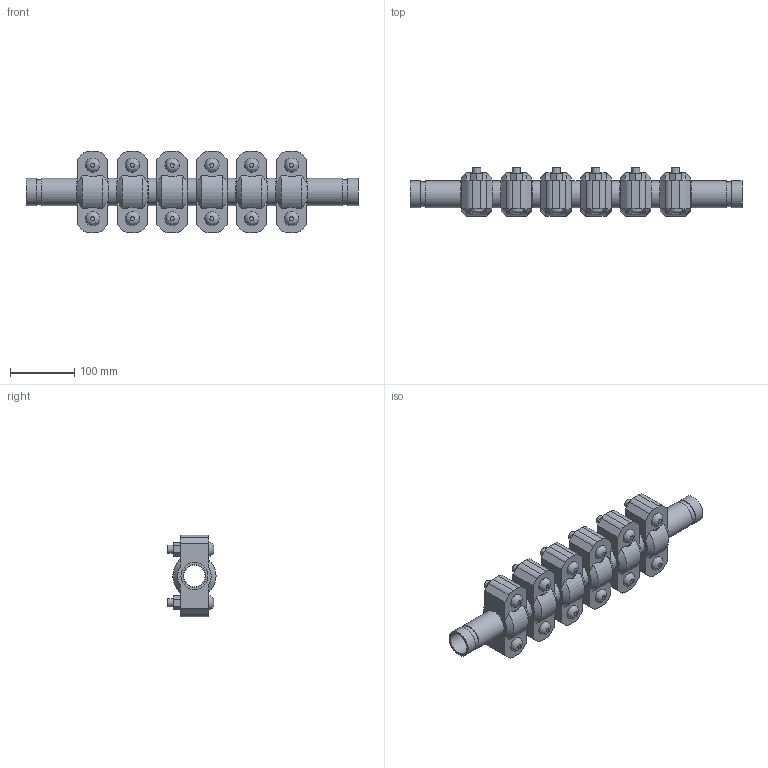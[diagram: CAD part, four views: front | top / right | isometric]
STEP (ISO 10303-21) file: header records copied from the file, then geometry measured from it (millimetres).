
FILE_DESCRIPTION(/* description */ ('VIC EXPANSION JOINT 6 COUPLINGS EXPANDED STYLE 155 (OGS)','CAx-IF Rec.Pracs.---Representation and Presentation of Product Manufacturing Information (PMI)---4.0---2014-10-13'),/* implementation_level */ '2;1');
FILE_NAME(/* name */ 'C:\Users\kkamble\AppData\Roaming\Autodesk\ApplicationPlugins\Victaulic.Temp\A6\Victaulic_IPS_Expansion Joint_Expanded_6 Couplings_Style 155 (OGS)_1.25 (32).stp',/* time_stamp */ '2021-06-27T00:04:15+02:00',/* author */ ('kkamble'),/* organization */ ('Victaulic'),/* preprocessor_version */ 'ST-DEVELOPER v17.2',/* originating_system */ 'Autodesk Inventor 2019',/* authorisation */ '');
FILE_SCHEMA (('AP242_MANAGED_MODEL_BASED_3D_ENGINEERING_MIM_LF { 1 0 10303 442 1 1 4 }'));
Length unit declared in the file: inch
Products named in the file (4): 155-01.25; Nipple-01.25; Nipple-01.25_1; 077-01.25
Assembly tree (13 placements, depth 2):
  155-01.25
    Nipple-01.25  x2
    Nipple-01.25_1  x5
    077-01.25  x6
Bounding box: 517.4 x 74.93 x 127 mm (x, y, z)
Volume: 1583198.7 mm3; surface area: 385829.7 mm2
Topology: 13 solids, 25 shells, 450 faces, 1080 edges, 756 vertices
Faces by surface type: plane 258, cylinder 156, cone 24, bspline 12
Full cylindrical faces by diameter (mm): 12.7 x24, 14.605 x12, 33.274 x6, 35.052 x7, 38.989 x14, 42.164 x33
Entity records: 2985 total; most frequent: CARTESIAN_POINT 557, DIRECTION 489, ORIENTED_EDGE 410, EDGE_CURVE 205, AXIS2_PLACEMENT_3D 196, VERTEX_POINT 146, EDGE_LOOP 111, LINE 97
